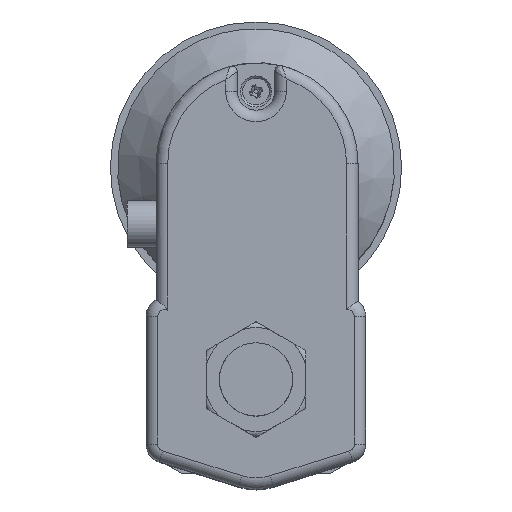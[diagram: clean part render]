
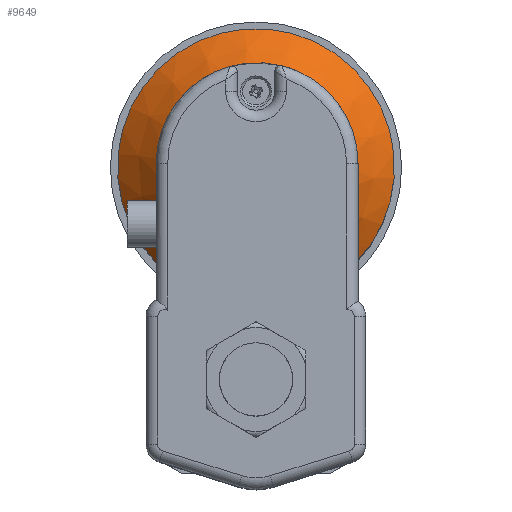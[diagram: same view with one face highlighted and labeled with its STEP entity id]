
A CAD part, top view. The second image highlights one B-rep face of the part: STEP entity #9649.
In plain terms, the highlighted conical face has half-angle 45 degrees and reference radius 48 mm.
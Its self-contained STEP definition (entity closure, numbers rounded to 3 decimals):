
#309 = EDGE_CURVE ( 'NONE', #2146, #2132, #3744, .T. ) ;
#314 = EDGE_CURVE ( 'NONE', #4542, #4542, #3750, .T. ) ;
#319 = EDGE_CURVE ( 'NONE', #2132, #2146, #7570, .T. ) ;
#745 = AXIS2_PLACEMENT_3D ( 'NONE', #4982, #4971, #4967 ) ;
#748 = AXIS2_PLACEMENT_3D ( 'NONE', #4882, #4890, #4891 ) ;
#2132 = VERTEX_POINT ( 'NONE', #8053 ) ;
#2146 = VERTEX_POINT ( 'NONE', #8039 ) ;
#3744 = CIRCLE ( 'NONE', #745, 48. ) ;
#3750 = CIRCLE ( 'NONE', #748, 34. ) ;
#4150 = DIRECTION ( 'NONE',  ( 0., 1., 0. ) ) ;
#4161 = CARTESIAN_POINT ( 'NONE',  ( 0., 73.9, 53.5 ) ) ;
#4162 = DIRECTION ( 'NONE',  ( 0., 0., -1. ) ) ;
#4542 = VERTEX_POINT ( 'NONE', #4543 ) ;
#4543 = CARTESIAN_POINT ( 'NONE',  ( 0., 39.9, 67.5 ) ) ;
#4828 = CARTESIAN_POINT ( 'NONE',  ( 16.801, 34.078, 58.337 ) ) ;
#4867 = CARTESIAN_POINT ( 'NONE',  ( 2.477, 33.529, 61.127 ) ) ;
#4882 = CARTESIAN_POINT ( 'NONE',  ( 0., 73.9, 67.5 ) ) ;
#4890 = DIRECTION ( 'NONE',  ( 0., 0., 1. ) ) ;
#4891 = DIRECTION ( 'NONE',  ( 0., -1., 0. ) ) ;
#4892 = CARTESIAN_POINT ( 'NONE',  ( -27.908, 34.847, 53.5 ) ) ;
#4898 = CARTESIAN_POINT ( 'NONE',  ( -23.531, 34.53, 55.644 ) ) ;
#4899 = CARTESIAN_POINT ( 'NONE',  ( -22.421, 34.452, 56.137 ) ) ;
#4900 = CARTESIAN_POINT ( 'NONE',  ( -19.06, 34.223, 57.53 ) ) ;
#4901 = CARTESIAN_POINT ( 'NONE',  ( -16.779, 34.077, 58.344 ) ) ;
#4902 = CARTESIAN_POINT ( 'NONE',  ( -13.28, 33.887, 59.356 ) ) ;
#4903 = CARTESIAN_POINT ( 'NONE',  ( -12.101, 33.829, 59.657 ) ) ;
#4904 = CARTESIAN_POINT ( 'NONE',  ( -9.715, 33.725, 60.183 ) ) ;
#4905 = CARTESIAN_POINT ( 'NONE',  ( -8.505, 33.679, 60.407 ) ) ;
#4906 = CARTESIAN_POINT ( 'NONE',  ( -6.081, 33.605, 60.767 ) ) ;
#4907 = CARTESIAN_POINT ( 'NONE',  ( -4.863, 33.577, 60.903 ) ) ;
#4908 = CARTESIAN_POINT ( 'NONE',  ( -2.415, 33.538, 61.085 ) ) ;
#4909 = CARTESIAN_POINT ( 'NONE',  ( -1.188, 33.529, 61.13 ) ) ;
#4915 = CARTESIAN_POINT ( 'NONE',  ( -26.826, 34.768, 54.065 ) ) ;
#4916 = CARTESIAN_POINT ( 'NONE',  ( -25.733, 34.688, 54.609 ) ) ;
#4967 = DIRECTION ( 'NONE',  ( 0., -1., 0. ) ) ;
#4971 = DIRECTION ( 'NONE',  ( 0., 0., 1. ) ) ;
#4982 = CARTESIAN_POINT ( 'NONE',  ( 0., 73.9, 53.5 ) ) ;
#4993 = CARTESIAN_POINT ( 'NONE',  ( 13.307, 33.888, 59.348 ) ) ;
#5005 = CARTESIAN_POINT ( 'NONE',  ( 12.13, 33.83, 59.65 ) ) ;
#5010 = CARTESIAN_POINT ( 'NONE',  ( 19.078, 34.224, 57.523 ) ) ;
#5011 = CARTESIAN_POINT ( 'NONE',  ( 4.908, 33.569, 60.942 ) ) ;
#5014 = CARTESIAN_POINT ( 'NONE',  ( 9.746, 33.726, 60.177 ) ) ;
#5015 = CARTESIAN_POINT ( 'NONE',  ( 8.537, 33.68, 60.402 ) ) ;
#5016 = CARTESIAN_POINT ( 'NONE',  ( 25.745, 34.688, 54.629 ) ) ;
#5017 = CARTESIAN_POINT ( 'NONE',  ( 23.55, 34.529, 55.668 ) ) ;
#5019 = CARTESIAN_POINT ( 'NONE',  ( 27.908, 34.847, 53.5 ) ) ;
#5680 = FACE_OUTER_BOUND ( 'NONE', #9080, .T. ) ;
#5681 = CONICAL_SURFACE ( 'NONE', #9519, 48., 0.785 ) ;
#5683 = FACE_BOUND ( 'NONE', #9064, .T. ) ;
#7349 = ORIENTED_EDGE ( 'NONE', *, *, #314, .F. ) ;
#7359 = ORIENTED_EDGE ( 'NONE', *, *, #309, .T. ) ;
#7363 = ORIENTED_EDGE ( 'NONE', *, *, #319, .T. ) ;
#7570 = B_SPLINE_CURVE_WITH_KNOTS ( 'NONE', 3,
 ( #4892, #4915, #4916, #4898, #4899, #4900, #4901, #4902, #4903, #4904, #4905, #4906, #4907, #4908, #4909, #4867, #5011, #5015, #5014, #5005, #4993, #4828, #5010, #5017, #5016, #5019 ),
 .UNSPECIFIED., .F., .F.,
 ( 4, 2, 2, 2, 2, 2, 2, 2, 2, 2, 2, 2, 4 ),
 ( 0., 0.004, 0.007, 0.015, 0.018, 0.022, 0.026, 0.029, 0.037, 0.04, 0.044, 0.051, 0.059 ),
 .UNSPECIFIED. ) ;
#8039 = CARTESIAN_POINT ( 'NONE',  ( 27.908, 34.847, 53.5 ) ) ;
#8053 = CARTESIAN_POINT ( 'NONE',  ( -27.908, 34.847, 53.5 ) ) ;
#9064 = EDGE_LOOP ( 'NONE', ( #7349 ) ) ;
#9080 = EDGE_LOOP ( 'NONE', ( #7359, #7363 ) ) ;
#9519 = AXIS2_PLACEMENT_3D ( 'NONE', #4161, #4162, #4150 ) ;
#9649 = ADVANCED_FACE ( 'NONE', ( #5683, #5680 ), #5681, .T. ) ;
